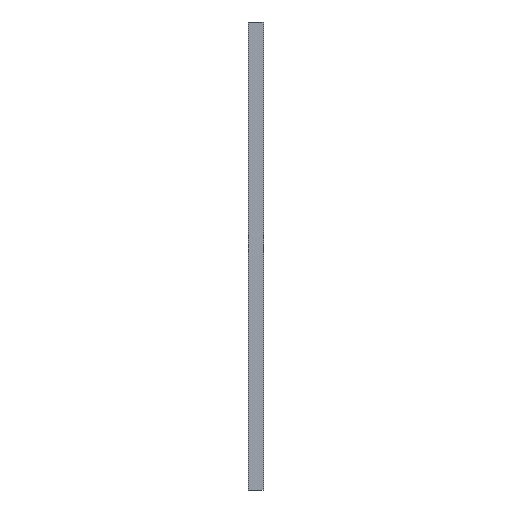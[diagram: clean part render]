
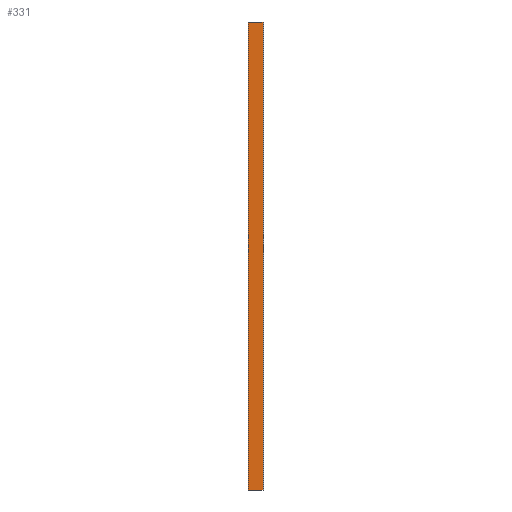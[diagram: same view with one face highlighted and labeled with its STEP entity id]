
A CAD part, left-side view. The second image highlights one B-rep face of the part: STEP entity #331.
In plain terms, the highlighted planar face has unit normal (-1, 0, 0).
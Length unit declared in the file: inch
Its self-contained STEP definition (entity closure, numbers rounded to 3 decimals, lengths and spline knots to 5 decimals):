
#23 = DIRECTION ( 'NONE',  ( 0., 0., -1. ) ) ;
#27 = LINE ( 'NONE', #201, #268 ) ;
#44 = ORIENTED_EDGE ( 'NONE', *, *, #154, .F. ) ;
#55 = CARTESIAN_POINT ( 'NONE',  ( 0., 0.03937, 78.74016 ) ) ;
#67 = LINE ( 'NONE', #343, #433 ) ;
#75 = CARTESIAN_POINT ( 'NONE',  ( 0., 0.03937, 0. ) ) ;
#83 = FACE_OUTER_BOUND ( 'NONE', #147, .T. ) ;
#91 = ORIENTED_EDGE ( 'NONE', *, *, #381, .F. ) ;
#96 = CARTESIAN_POINT ( 'NONE',  ( 0., 0.03937, 78.74016 ) ) ;
#99 = PLANE ( 'NONE',  #223 ) ;
#124 = ORIENTED_EDGE ( 'NONE', *, *, #277, .T. ) ;
#141 = CARTESIAN_POINT ( 'NONE',  ( 0., 2.5, 78.74016 ) ) ;
#147 = EDGE_LOOP ( 'NONE', ( #586, #44, #91, #124 ) ) ;
#154 = EDGE_CURVE ( 'NONE', #230, #161, #245, .T. ) ;
#161 = VERTEX_POINT ( 'NONE', #75 ) ;
#174 = LINE ( 'NONE', #191, #516 ) ;
#191 = CARTESIAN_POINT ( 'NONE',  ( 0., 2.5, 78.74016 ) ) ;
#196 = DIRECTION ( 'NONE',  ( 0., -1., 0. ) ) ;
#201 = CARTESIAN_POINT ( 'NONE',  ( 0., 0.03937, 78.74016 ) ) ;
#223 = AXIS2_PLACEMENT_3D ( 'NONE', #55, #424, #535 ) ;
#230 = VERTEX_POINT ( 'NONE', #96 ) ;
#245 = LINE ( 'NONE', #468, #471 ) ;
#268 = VECTOR ( 'NONE', #196, 39.37008 ) ;
#277 = EDGE_CURVE ( 'NONE', #290, #278, #174, .T. ) ;
#278 = VERTEX_POINT ( 'NONE', #436 ) ;
#290 = VERTEX_POINT ( 'NONE', #141 ) ;
#331 = ADVANCED_FACE ( 'NONE', ( #83 ), #99, .F. ) ;
#336 = DIRECTION ( 'NONE',  ( 0., -1., 0. ) ) ;
#343 = CARTESIAN_POINT ( 'NONE',  ( 0., 0.03937, 0. ) ) ;
#381 = EDGE_CURVE ( 'NONE', #290, #230, #27, .T. ) ;
#386 = DIRECTION ( 'NONE',  ( 0., 0., -1. ) ) ;
#424 = DIRECTION ( 'NONE',  ( 1., 0., 0. ) ) ;
#433 = VECTOR ( 'NONE', #336, 39.37008 ) ;
#436 = CARTESIAN_POINT ( 'NONE',  ( 0., 2.5, 0. ) ) ;
#439 = EDGE_CURVE ( 'NONE', #278, #161, #67, .T. ) ;
#468 = CARTESIAN_POINT ( 'NONE',  ( 0., 0.03937, 78.74016 ) ) ;
#471 = VECTOR ( 'NONE', #23, 39.37008 ) ;
#516 = VECTOR ( 'NONE', #386, 39.37008 ) ;
#535 = DIRECTION ( 'NONE',  ( 0., 0., -1. ) ) ;
#586 = ORIENTED_EDGE ( 'NONE', *, *, #439, .T. ) ;
